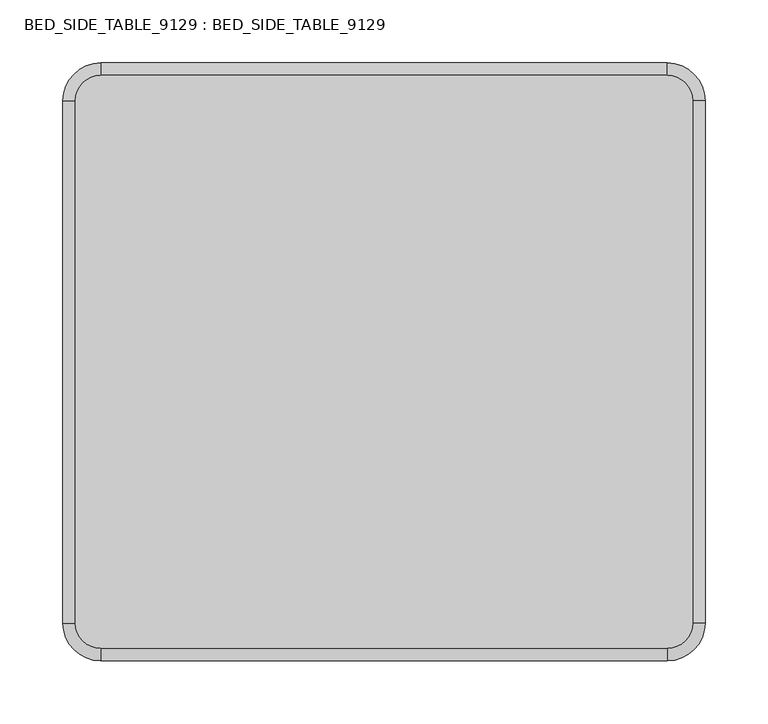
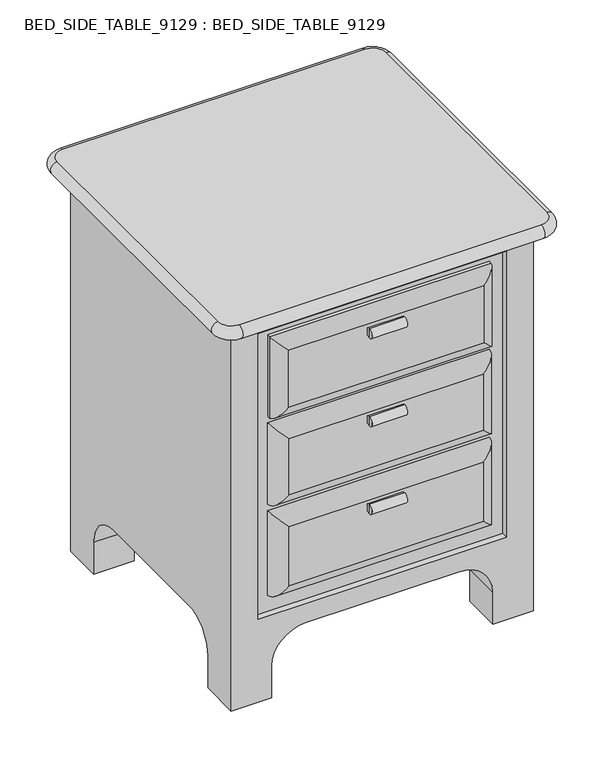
"""IFC4 building model written with IfcOpenShell, lengths in millimetres: furniture geometry, BED_SIDE_TABLE_9129 : BED_SIDE_TABLE_9129."""

from ifc_helpers import new_model, si_unit, point, frame, origin, place, context, project, spatial, polyline, circle_curve, ellipse_curve, trimmed, source, transform, mapped, element, save
from ifc_brep_helpers import plane_surface, cylinder_surface, revolved_surface, advanced_brep


def bed_side_table_9129_bed_side_table_9129_263ee310(model_context):
    return source(origin(), model_context, "Body", "AdvancedBrep", [
        advanced_brep(
        [(64.1710576, -185.6620283, 258.3333333), (64.1710576, -185.6620283, 265.7120474), (64.1710576, -185.6620283, 250.9546193), (11.6566154, -185.6620283, 250.9546193), (11.6566154, -185.6620283, 265.7120474), (11.6566154, -185.6620283, 258.3333333)],
        [
            (0, 1),
            (1, 2, circle_curve(frame((64.1710576, -185.6620283, 258.3333333), z_axis=(1.0, 0.0, 0.0), x_axis=(0.0, 0.0, 1.0)), 7.378714)),
            (2, 0),
            (2, 1, circle_curve(frame((64.1710576, -185.6620283, 258.3333333), z_axis=(1.0, 0.0, 0.0), x_axis=(0.0, 0.0, 1.0)), 7.378714)),
            (3, 4, circle_curve(frame((11.6566154, -185.6620283, 258.3333333), z_axis=(-1.0, 0.0, 0.0), x_axis=(0.0, 0.0, 1.0)), 7.378714)),
            (4, 5),
            (5, 3),
            (4, 3, circle_curve(frame((11.6566154, -185.6620283, 258.3333333), z_axis=(-1.0, 0.0, 0.0), x_axis=(0.0, 0.0, 1.0)), 7.378714)),
            (1, 4),
            (3, 2),
        ],
        [
            plane_surface(frame((64.1710576, -185.6620283, 258.3333333), z_axis=(1.0, 0.0, 0.0), x_axis=(0.0, 0.0, 1.0))),
            plane_surface(frame((11.6566154, -185.6620283, 258.3333333), z_axis=(-1.0, 0.0, 0.0), x_axis=(0.0, 0.0, 1.0))),
            cylinder_surface(frame((36.6566154, -185.6620283, 258.3333333), z_axis=(1.0, 0.0, 0.0), x_axis=(0.0, 0.0, 1.0)), 7.378714),
        ],
        [
            (0, [[1, 2, 3]]),
            (0, [[-3, 4, -1]]),
            (1, [[5, 6, 7]]),
            (1, [[8, -7, -6]]),
            (2, [[-2, 9, -5, 10]]),
            (2, [[-4, -10, -8, -9]]),
        ],
    ),
        advanced_brep(
        [(64.1710576, -185.6620283, 396.6666667), (64.1710576, -185.6620283, 404.0453807), (64.1710576, -185.6620283, 389.2879526), (11.6566154, -185.6620283, 389.2879526), (11.6566154, -185.6620283, 404.0453807), (11.6566154, -185.6620283, 396.6666667)],
        [
            (0, 1),
            (1, 2, circle_curve(frame((64.1710576, -185.6620283, 396.6666667), z_axis=(1.0, 0.0, 0.0), x_axis=(0.0, 0.0, 1.0)), 7.378714)),
            (2, 0),
            (2, 1, circle_curve(frame((64.1710576, -185.6620283, 396.6666667), z_axis=(1.0, 0.0, 0.0), x_axis=(0.0, 0.0, 1.0)), 7.378714)),
            (3, 4, circle_curve(frame((11.6566154, -185.6620283, 396.6666667), z_axis=(-1.0, 0.0, 0.0), x_axis=(0.0, 0.0, 1.0)), 7.378714)),
            (4, 5),
            (5, 3),
            (4, 3, circle_curve(frame((11.6566154, -185.6620283, 396.6666667), z_axis=(-1.0, 0.0, 0.0), x_axis=(0.0, 0.0, 1.0)), 7.378714)),
            (1, 4),
            (3, 2),
        ],
        [
            plane_surface(frame((64.1710576, -185.6620283, 396.6666667), z_axis=(1.0, 0.0, 0.0), x_axis=(0.0, 0.0, 1.0))),
            plane_surface(frame((11.6566154, -185.6620283, 396.6666667), z_axis=(-1.0, 0.0, 0.0), x_axis=(0.0, 0.0, 1.0))),
            cylinder_surface(frame((36.6566154, -185.6620283, 396.6666667), z_axis=(1.0, 0.0, 0.0), x_axis=(0.0, 0.0, 1.0)), 7.378714),
        ],
        [
            (0, [[1, 2, 3]]),
            (0, [[-3, 4, -1]]),
            (1, [[5, 6, 7]]),
            (1, [[8, -7, -6]]),
            (2, [[-2, 9, -5, 10]]),
            (2, [[-4, -10, -8, -9]]),
        ],
    ),
        advanced_brep(
        [(64.1710576, -185.6620283, 535.0), (64.1710576, -185.6620283, 542.378714), (64.1710576, -185.6620283, 527.621286), (11.6566154, -185.6620283, 527.621286), (11.6566154, -185.6620283, 542.378714), (11.6566154, -185.6620283, 535.0)],
        [
            (0, 1),
            (1, 2, circle_curve(frame((64.1710576, -185.6620283, 535.0), z_axis=(1.0, 0.0, 0.0), x_axis=(0.0, 0.0, 1.0)), 7.378714)),
            (2, 0),
            (2, 1, circle_curve(frame((64.1710576, -185.6620283, 535.0), z_axis=(1.0, 0.0, 0.0), x_axis=(0.0, 0.0, 1.0)), 7.378714)),
            (3, 4, circle_curve(frame((11.6566154, -185.6620283, 535.0), z_axis=(-1.0, 0.0, 0.0), x_axis=(0.0, 0.0, 1.0)), 7.378714)),
            (4, 5),
            (5, 3),
            (4, 3, circle_curve(frame((11.6566154, -185.6620283, 535.0), z_axis=(-1.0, 0.0, 0.0), x_axis=(0.0, 0.0, 1.0)), 7.378714)),
            (1, 4),
            (3, 2),
        ],
        [
            plane_surface(frame((64.1710576, -185.6620283, 535.0), z_axis=(1.0, 0.0, 0.0), x_axis=(0.0, 0.0, 1.0))),
            plane_surface(frame((11.6566154, -185.6620283, 535.0), z_axis=(-1.0, 0.0, 0.0), x_axis=(0.0, 0.0, 1.0))),
            cylinder_surface(frame((36.6566154, -185.6620283, 535.0), z_axis=(1.0, 0.0, 0.0), x_axis=(0.0, 0.0, 1.0)), 7.378714),
        ],
        [
            (0, [[1, 2, 3]]),
            (0, [[-3, 4, -1]]),
            (1, [[5, 6, 7]]),
            (1, [[8, -7, -6]]),
            (2, [[-2, 9, -5, 10]]),
            (2, [[-4, -10, -8, -9]]),
        ],
    ),
        advanced_brep(
        [(205.0, -159.9692111, 565.0), (205.0, -159.9692111, 436.6666667), (-125.0, -159.9692111, 436.6666667), (-125.0, -159.9692111, 565.0), (-105.5943818, -179.9692111, 545.5943818), (-105.5943818, -179.9692111, 456.0722849), (185.5943818, -179.9692111, 456.0722849), (185.5943818, -179.9692111, 545.5943818), (205.0, -164.8088373, 565.0), (205.0, -164.8088373, 436.6666667), (-125.0, -164.8088373, 436.6666667), (-125.0, -164.8088373, 565.0)],
        [
            (0, 1),
            (1, 2),
            (2, 3),
            (3, 0),
            (4, 5),
            (5, 6),
            (6, 7),
            (7, 4),
            (0, 8),
            (8, 9),
            (9, 1),
            (9, 10),
            (10, 2),
            (10, 11),
            (11, 3),
            (11, 8),
            (10, 5, ellipse_curve(frame((-105.5943818, -159.9692111, 456.0722849), z_axis=(-0.7071067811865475, 0.0, 0.7071067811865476), x_axis=(-0.7071067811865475, 0.0, -0.7071067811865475)), 28.2842712, 20.0)),
            (4, 11, ellipse_curve(frame((-105.5943818, -159.9692111, 545.5943818), z_axis=(-0.7071067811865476, 0.0, -0.7071067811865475), x_axis=(0.7071067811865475, 0.0, -0.7071067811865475)), 28.2842712, 20.0)),
            (9, 6, ellipse_curve(frame((185.5943818, -159.9692111, 456.0722849), z_axis=(-0.7071067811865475, 0.0, -0.7071067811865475), x_axis=(0.7071067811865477, 0.0, -0.7071067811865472)), 28.2842712, 20.0)),
            (8, 7, ellipse_curve(frame((185.5943818, -159.9692111, 545.5943818), z_axis=(0.7071067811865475, 0.0, -0.7071067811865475), x_axis=(0.7071067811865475, 0.0, 0.7071067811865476)), 28.2842712, 20.0)),
        ],
        [
            plane_surface(frame((205.0, -159.9692111, 565.0), z_axis=(0.0, 1.0, 0.0), x_axis=(0.0, 0.0, -1.0))),
            plane_surface(frame((205.0, -179.9692111, 565.0), z_axis=(0.0, -1.0, 0.0), x_axis=(0.0, 0.0, 1.0))),
            plane_surface(frame((205.0, -159.9692111, 565.0), z_axis=(1.0, 0.0, 0.0), x_axis=(0.0, -1.0, 0.0))),
            plane_surface(frame((205.0, -159.9692111, 436.6666667), z_axis=(0.0, 0.0, -1.0), x_axis=(0.0, -1.0, 0.0))),
            plane_surface(frame((-125.0, -159.9692111, 436.6666667), z_axis=(-1.0, 0.0, 0.0), x_axis=(0.0, -1.0, 0.0))),
            plane_surface(frame((-125.0, -159.9692111, 565.0), z_axis=(0.0, 0.0, 1.0), x_axis=(0.0, -1.0, 0.0))),
            cylinder_surface(frame((-105.5943818, -159.9692111, 565.0), z_axis=(0.0, 0.0, -1.0), x_axis=(0.0, -1.0, 0.0)), 20.0),
            cylinder_surface(frame((-125.0, -159.9692111, 456.0722849), z_axis=(1.0, 0.0, 0.0), x_axis=(0.0, -1.0, 0.0)), 20.0),
            cylinder_surface(frame((185.5943818, -159.9692111, 436.6666667), z_axis=(0.0, 0.0, 1.0), x_axis=(0.0, -1.0, 0.0)), 20.0),
            cylinder_surface(frame((205.0, -159.9692111, 545.5943818), z_axis=(-1.0, 0.0, 0.0), x_axis=(0.0, -1.0, 0.0)), 20.0),
        ],
        [
            (0, [[1, 2, 3, 4]]),
            (1, [[5, 6, 7, 8]]),
            (2, [[-1, 9, 10, 11]]),
            (3, [[-2, -11, 12, 13]]),
            (4, [[-3, -13, 14, 15]]),
            (5, [[-4, -15, 16, -9]]),
            (6, [[17, -5, 18, -14]]),
            (7, [[19, -6, -17, -12]]),
            (8, [[20, -7, -19, -10]]),
            (9, [[-20, -16, -18, -8]]),
        ],
    ),
        advanced_brep(
        [(-125.0, -159.9692111, 298.3333333), (-125.0, -159.9692111, 426.6666667), (205.0, -159.9692111, 426.6666667), (205.0, -159.9692111, 298.3333333), (-105.0, -179.9692111, 406.6666667), (-105.0, -179.9692111, 318.3333333), (185.0, -179.9692111, 318.3333333), (185.0, -179.9692111, 406.6666667)],
        [
            (0, 1),
            (1, 2),
            (2, 3),
            (3, 0),
            (4, 5),
            (5, 6),
            (6, 7),
            (7, 4),
            (0, 5, ellipse_curve(frame((-105.0, -159.9692111, 318.3333333), z_axis=(-0.7071067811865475, 0.0, 0.7071067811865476), x_axis=(-0.7071067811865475, 0.0, -0.7071067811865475)), 28.2842712, 20.0)),
            (4, 1, ellipse_curve(frame((-105.0, -159.9692111, 406.6666667), z_axis=(-0.7071067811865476, 0.0, -0.7071067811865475), x_axis=(0.7071067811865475, 0.0, -0.7071067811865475)), 28.2842712, 20.0)),
            (3, 6, ellipse_curve(frame((185.0, -159.9692111, 318.3333333), z_axis=(-0.7071067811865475, 0.0, -0.7071067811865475), x_axis=(0.7071067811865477, 0.0, -0.7071067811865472)), 28.2842712, 20.0)),
            (2, 7, ellipse_curve(frame((185.0, -159.9692111, 406.6666667), z_axis=(0.7071067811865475, 0.0, -0.7071067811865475), x_axis=(0.7071067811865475, 0.0, 0.7071067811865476)), 28.2842712, 20.0)),
        ],
        [
            plane_surface(frame((205.0, -159.9692111, 565.0), z_axis=(0.0, 1.0, 0.0), x_axis=(0.0, 0.0, -1.0))),
            plane_surface(frame((205.0, -179.9692111, 565.0), z_axis=(0.0, -1.0, 0.0), x_axis=(0.0, 0.0, 1.0))),
            cylinder_surface(frame((-105.0, -159.9692111, 426.6666667), z_axis=(0.0, 0.0, -1.0), x_axis=(0.0, -1.0, 0.0)), 20.0),
            cylinder_surface(frame((-125.0, -159.9692111, 318.3333333), z_axis=(1.0, 0.0, 0.0), x_axis=(0.0, -1.0, 0.0)), 20.0),
            cylinder_surface(frame((185.0, -159.9692111, 298.3333333), z_axis=(0.0, 0.0, 1.0), x_axis=(0.0, -1.0, 0.0)), 20.0),
            cylinder_surface(frame((205.0, -159.9692111, 406.6666667), z_axis=(-1.0, 0.0, 0.0), x_axis=(0.0, -1.0, 0.0)), 20.0),
        ],
        [
            (0, [[1, 2, 3, 4]]),
            (1, [[5, 6, 7, 8]]),
            (2, [[9, -5, 10, -1]]),
            (3, [[-9, -4, 11, -6]]),
            (4, [[-11, -3, 12, -7]]),
            (5, [[-10, -8, -12, -2]]),
        ],
    ),
        advanced_brep(
        [(-125.0, -159.9692111, 155.0), (-125.0, -159.9692111, 288.3333333), (205.0, -159.9692111, 288.3333333), (205.0, -159.9692111, 155.0), (-105.0, -179.9692111, 268.3333333), (-105.0, -179.9692111, 175.0), (185.0, -179.9692111, 175.0), (185.0, -179.9692111, 268.3333333)],
        [
            (0, 1),
            (1, 2),
            (2, 3),
            (3, 0),
            (4, 5),
            (5, 6),
            (6, 7),
            (7, 4),
            (0, 5, ellipse_curve(frame((-105.0, -159.9692111, 175.0), z_axis=(-0.7071067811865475, 0.0, 0.7071067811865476), x_axis=(-0.7071067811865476, 0.0, -0.7071067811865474)), 28.2842712, 20.0)),
            (4, 1, ellipse_curve(frame((-105.0, -159.9692111, 268.3333333), z_axis=(-0.7071067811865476, 0.0, -0.7071067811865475), x_axis=(0.7071067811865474, 0.0, -0.7071067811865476)), 28.2842712, 20.0)),
            (3, 6, ellipse_curve(frame((185.0, -159.9692111, 175.0), z_axis=(-0.7071067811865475, 0.0, -0.7071067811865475), x_axis=(0.7071067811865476, 0.0, -0.7071067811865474)), 28.2842712, 20.0)),
            (2, 7, ellipse_curve(frame((185.0, -159.9692111, 268.3333333), z_axis=(0.7071067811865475, 0.0, -0.7071067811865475), x_axis=(0.7071067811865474, 0.0, 0.7071067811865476)), 28.2842712, 20.0)),
        ],
        [
            plane_surface(frame((205.0, -159.9692111, 565.0), z_axis=(0.0, 1.0, 0.0), x_axis=(0.0, 0.0, -1.0))),
            plane_surface(frame((205.0, -179.9692111, 565.0), z_axis=(0.0, -1.0, 0.0), x_axis=(0.0, 0.0, 1.0))),
            cylinder_surface(frame((-105.0, -159.9692111, 288.3333333), z_axis=(0.0, 0.0, -1.0), x_axis=(0.0, -1.0, 0.0)), 20.0),
            cylinder_surface(frame((-125.0, -159.9692111, 175.0), z_axis=(1.0, 0.0, 0.0), x_axis=(0.0, -1.0, 0.0)), 20.0),
            cylinder_surface(frame((185.0, -159.9692111, 155.0), z_axis=(0.0, 0.0, 1.0), x_axis=(0.0, -1.0, 0.0)), 20.0),
            cylinder_surface(frame((205.0, -159.9692111, 268.3333333), z_axis=(-1.0, 0.0, 0.0), x_axis=(0.0, -1.0, 0.0)), 20.0),
        ],
        [
            (0, [[1, 2, 3, 4]]),
            (1, [[5, 6, 7, 8]]),
            (2, [[9, -5, 10, -1]]),
            (3, [[-9, -4, 11, -6]]),
            (4, [[-11, -3, 12, -7]]),
            (5, [[-10, -8, -12, -2]]),
        ],
    ),
        advanced_brep(
        [(-205.0, 244.9107964, 600.0), (-185.0, 264.9107964, 600.0), (265.0, 264.9107964, 600.0), (285.0, 244.9107964, 600.0), (285.0, -169.9692111, 600.0), (265.0, -189.9692111, 600.0), (-185.0, -189.9692111, 600.0), (-205.0, -169.9692111, 600.0), (-185.0, 264.9107964, 620.0), (-205.0, 244.9107964, 620.0), (-205.0, -169.9692111, 620.0), (-185.0, -189.9692111, 620.0), (265.0, -189.9692111, 620.0), (285.0, -169.9692111, 620.0), (285.0, 244.9107964, 620.0), (265.0, 264.9107964, 620.0), (-185.0, 274.9107964, 610.0000125), (-215.0, 244.9107964, 610.0000123), (-215.0, -169.9692111, 610.0), (-185.0, -199.9692111, 610.0000122), (265.0, -199.9692111, 610.0), (295.0, -169.9692111, 610.0000111), (295.0, 244.9107964, 610.0), (265.0, 274.9107964, 610.0000097)],
        [
            (0, 1, circle_curve(frame((-185.0, 244.9107964, 600.0), z_axis=(0.0, 0.0, -1.0), x_axis=(0.0, 1.0, 0.0)), 20.0)),
            (1, 2),
            (2, 3, circle_curve(frame((265.0, 244.9107964, 600.0), z_axis=(0.0, 0.0, -1.0), x_axis=(1.0, 0.0, 0.0)), 20.0)),
            (3, 4),
            (4, 5, circle_curve(frame((265.0, -169.9692111, 600.0), z_axis=(0.0, 0.0, -1.0), x_axis=(0.0, -1.0, 0.0)), 20.0)),
            (5, 6),
            (6, 7, circle_curve(frame((-185.0, -169.9692111, 600.0), z_axis=(0.0, 0.0, -1.0), x_axis=(-1.0, 0.0, 0.0)), 20.0)),
            (7, 0),
            (8, 9, circle_curve(frame((-185.0, 244.9107964, 620.0), z_axis=(0.0, 0.0, 1.0), x_axis=(0.0, 1.0, 0.0)), 20.0)),
            (9, 10),
            (10, 11, circle_curve(frame((-185.0, -169.9692111, 620.0), z_axis=(0.0, 0.0, 1.0), x_axis=(-1.0, 0.0, 0.0)), 20.0)),
            (11, 12),
            (12, 13, circle_curve(frame((265.0, -169.9692111, 620.0), z_axis=(0.0, 0.0, 1.0), x_axis=(0.0, -1.0, 0.0)), 20.0)),
            (13, 14),
            (14, 15, circle_curve(frame((265.0, 244.9107964, 620.0), z_axis=(0.0, 0.0, 1.0), x_axis=(1.0, 0.0, 0.0)), 20.0)),
            (15, 8),
            (8, 16, circle_curve(frame((-185.0, 264.9107964, 610.0), z_axis=(-1.0, 0.0, 0.0), x_axis=(0.0, -1.0, 0.0)), 10.0)),
            (16, 1, circle_curve(frame((-185.0, 264.9107964, 610.0), z_axis=(-1.0, 0.0, 0.0), x_axis=(0.0, -1.0, 0.0)), 10.0)),
            (0, 17, circle_curve(frame((-205.0, 244.9107964, 610.0), z_axis=(0.0, 1.0, 0.0), x_axis=(1.0, 0.0, 0.0)), 10.0)),
            (17, 9, circle_curve(frame((-205.0, 244.9107964, 610.0), z_axis=(0.0, 1.0, 0.0), x_axis=(1.0, 0.0, 0.0)), 10.0)),
            (7, 18, circle_curve(frame((-205.0, -169.9692111, 610.0), z_axis=(0.0, 1.0, 0.0), x_axis=(1.0, 0.0, 0.0)), 10.0)),
            (18, 10, circle_curve(frame((-205.0, -169.9692111, 610.0), z_axis=(0.0, 1.0, 0.0), x_axis=(1.0, 0.0, 0.0)), 10.0)),
            (6, 19, circle_curve(frame((-185.0, -189.9692111, 610.0), z_axis=(-1.0, 0.0, 0.0), x_axis=(0.0, 1.0, 0.0)), 10.0)),
            (19, 11, circle_curve(frame((-185.0, -189.9692111, 610.0), z_axis=(-1.0, 0.0, 0.0), x_axis=(0.0, 1.0, 0.0)), 10.0)),
            (5, 20, circle_curve(frame((265.0, -189.9692111, 610.0), z_axis=(-1.0, 0.0, 0.0), x_axis=(0.0, 1.0, 0.0)), 10.0)),
            (20, 12, circle_curve(frame((265.0, -189.9692111, 610.0), z_axis=(-1.0, 0.0, 0.0), x_axis=(0.0, 1.0, 0.0)), 10.0)),
            (4, 21, circle_curve(frame((285.0, -169.9692111, 610.0), z_axis=(0.0, -1.0, 0.0), x_axis=(-1.0, 0.0, 0.0)), 10.0)),
            (21, 13, circle_curve(frame((285.0, -169.9692111, 610.0), z_axis=(0.0, -1.0, 0.0), x_axis=(-1.0, 0.0, 0.0)), 10.0)),
            (3, 22, circle_curve(frame((285.0, 244.9107964, 610.0), z_axis=(0.0, -1.0, 0.0), x_axis=(-1.0, 0.0, 0.0)), 10.0)),
            (22, 14, circle_curve(frame((285.0, 244.9107964, 610.0), z_axis=(0.0, -1.0, 0.0), x_axis=(-1.0, 0.0, 0.0)), 10.0)),
            (2, 23, circle_curve(frame((265.0, 264.9107964, 610.0), z_axis=(1.0, 0.0, 0.0), x_axis=(0.0, -1.0, 0.0)), 10.0)),
            (23, 15, circle_curve(frame((265.0, 264.9107964, 610.0), z_axis=(1.0, 0.0, 0.0), x_axis=(0.0, -1.0, 0.0)), 10.0)),
        ],
        [
            plane_surface(frame((-185.0, 274.9107964, 600.0), z_axis=(0.0, 0.0, -1.0), x_axis=(1.0, 0.0, 0.0))),
            plane_surface(frame((-185.0, 274.9107964, 620.0), z_axis=(0.0, 0.0, 1.0), x_axis=(-1.0, 0.0, 0.0))),
            revolved_surface(trimmed(ellipse_curve(frame((-185.0, 264.9107964, 610.0), z_axis=(1.0, 0.0, 0.0), x_axis=(0.0, -1.0, 0.0)), 10.0, 10.0), [point((-185.0, 264.9107964, 600.0))], [point((-185.0, 264.9107964, 620.0))], True, "CARTESIAN"), (-185.0, 244.9107964, 620.0), (0.0, 0.0, 1.0)),
            cylinder_surface(frame((-205.0, 244.9107964, 610.0), z_axis=(0.0, -1.0, 0.0), x_axis=(1.0, 0.0, 0.0)), 10.0),
            revolved_surface(trimmed(ellipse_curve(frame((-205.0, -169.9692111, 610.0), z_axis=(0.0, 1.0, 0.0), x_axis=(1.0, 0.0, 0.0)), 10.0, 10.0), [point((-205.0, -169.9692111, 600.0))], [point((-205.0, -169.9692111, 620.0))], True, "CARTESIAN"), (-185.0, -169.9692111, 620.0), (0.0, 0.0, 1.0)),
            cylinder_surface(frame((-185.0, -189.9692111, 610.0), z_axis=(1.0, 0.0, 0.0), x_axis=(0.0, 1.0, 0.0)), 10.0),
            revolved_surface(trimmed(ellipse_curve(frame((265.0, -189.9692111, 610.0), z_axis=(-1.0, 0.0, 0.0), x_axis=(0.0, 1.0, 0.0)), 10.0, 10.0), [point((265.0, -189.9692111, 600.0))], [point((265.0, -189.9692111, 620.0))], True, "CARTESIAN"), (265.0, -169.9692111, 620.0), (0.0, 0.0, 1.0)),
            cylinder_surface(frame((285.0, -169.9692111, 610.0), z_axis=(0.0, 1.0, 0.0), x_axis=(-1.0, 0.0, 0.0)), 10.0),
            revolved_surface(trimmed(ellipse_curve(frame((285.0, 244.9107964, 610.0), z_axis=(0.0, -1.0, 0.0), x_axis=(-1.0, 0.0, 0.0)), 10.0, 10.0), [point((285.0, 244.9107964, 600.0))], [point((285.0, 244.9107964, 620.0))], True, "CARTESIAN"), (265.0, 244.9107964, 620.0), (0.0, 0.0, 1.0)),
            cylinder_surface(frame((265.0, 264.9107964, 610.0), z_axis=(-1.0, 0.0, 0.0), x_axis=(0.0, -1.0, 0.0)), 10.0),
        ],
        [
            (0, [[1, 2, 3, 4, 5, 6, 7, 8]]),
            (1, [[9, 10, 11, 12, 13, 14, 15, 16]]),
            (2, [[17, 18, -1, 19, 20, -9]]),
            (3, [[-19, -8, 21, 22, -10, -20]]),
            (4, [[-21, -7, 23, 24, -11, -22]]),
            (5, [[-23, -6, 25, 26, -12, -24]]),
            (6, [[-25, -5, 27, 28, -13, -26]]),
            (7, [[-27, -4, 29, 30, -14, -28]]),
            (8, [[31, 32, -15, -30, -29, -3]]),
            (9, [[-31, -2, -18, -17, -16, -32]]),
        ],
    ),
        advanced_brep(
        [(265.0, 244.9107964, 600.0), (265.0, 244.9107964, 0.0), (205.0, 244.9107964, 0.0), (205.0, 244.9107964, 50.0), (155.0, 244.9107964, 100.0), (-75.0, 244.9107964, 100.0), (-125.0, 244.9107964, 50.0), (-125.0, 244.9107964, 0.0), (-185.0, 244.9107964, 0.0), (-185.0, 244.9107964, 600.0), (265.0, -169.9692111, 600.0), (-185.0, -169.9692111, 600.0), (-185.0, -169.9692111, 0.0), (-125.0, -169.9692111, 0.0), (-125.0, -169.9692111, 50.0), (-75.0, -169.9692111, 100.0), (155.0, -169.9692111, 100.0), (205.0, -169.9692111, 50.0), (205.0, -169.9692111, 0.0), (265.0, -169.9692111, 0.0), (-145.0, -169.9692111, 580.0), (225.0, -169.9692111, 580.0), (225.0, -169.9692111, 130.0), (-145.0, -169.9692111, 130.0), (265.0, -109.9692111, 0.0), (265.0, -109.9692111, 50.0), (265.0, -59.9692111, 100.0), (265.0, 134.9107964, 100.0), (265.0, 184.9107964, 50.0), (265.0, 184.9107964, 0.0), (265.0, -84.9692111, 570.0), (265.0, 159.9107964, 570.0), (265.0, 184.9107964, 545.0), (265.0, 184.9107964, 180.0), (265.0, 159.9107964, 155.0), (265.0, -84.9692111, 155.0), (265.0, -109.9692111, 180.0), (265.0, -109.9692111, 545.0), (265.0, 159.9107964, 550.0), (265.0, -84.9692111, 550.0), (265.0, -89.9692111, 545.0), (265.0, -89.9692111, 180.0), (265.0, -84.9692111, 175.0), (265.0, 159.9107964, 175.0), (265.0, 164.9107964, 180.0), (265.0, 164.9107964, 545.0), (205.0, 184.9107964, 0.0), (-125.0, 184.9107964, 0.0), (-185.0, 184.9107964, 0.0), (-185.0, -109.9692111, 0.0), (-125.0, -109.9692111, 0.0), (205.0, -109.9692111, 0.0), (-185.0, 184.9107964, 50.0), (-185.0, 134.9107964, 100.0), (-185.0, -59.9692111, 100.0), (-185.0, -109.9692111, 50.0), (-75.0, 134.9107964, 100.0), (-125.0, 184.9107964, 50.0), (-125.0, -109.9692111, 50.0), (-75.0, -59.9692111, 100.0), (155.0, 134.9107964, 100.0), (155.0, -59.9692111, 100.0), (205.0, 184.9107964, 50.0), (205.0, -109.9692111, 50.0), (-145.0, -159.9692111, 580.0), (-145.0, -159.9692111, 130.0), (225.0, -159.9692111, 130.0), (225.0, -159.9692111, 580.0), (255.0, 159.9107964, 570.0), (255.0, -84.9692111, 570.0), (255.0, -109.9692111, 545.0), (255.0, -109.9692111, 180.0), (255.0, -84.9692111, 155.0), (255.0, 159.9107964, 155.0), (255.0, 184.9107964, 180.0), (255.0, 184.9107964, 545.0), (255.0, -84.9692111, 550.0), (255.0, 159.9107964, 550.0), (255.0, 164.9107964, 545.0), (255.0, 164.9107964, 180.0), (255.0, 159.9107964, 175.0), (255.0, -84.9692111, 175.0), (255.0, -89.9692111, 180.0), (255.0, -89.9692111, 545.0)],
        [
            (0, 1),
            (1, 2),
            (2, 3),
            (3, 4, circle_curve(frame((155.0, 244.9107964, 50.0), z_axis=(0.0, -1.0, 0.0), x_axis=(-1.0, 0.0, 0.0)), 50.0)),
            (4, 5),
            (5, 6, circle_curve(frame((-75.0, 244.9107964, 50.0), z_axis=(0.0, -1.0, 0.0), x_axis=(-1.0, 0.0, 0.0)), 50.0)),
            (6, 7),
            (7, 8),
            (8, 9),
            (9, 0),
            (10, 11),
            (11, 12),
            (12, 13),
            (13, 14),
            (14, 15, circle_curve(frame((-75.0, -169.9692111, 50.0), z_axis=(0.0, 1.0, 0.0), x_axis=(-1.0, 0.0, 0.0)), 50.0)),
            (15, 16),
            (16, 17, circle_curve(frame((155.0, -169.9692111, 50.0), z_axis=(0.0, 1.0, 0.0), x_axis=(-1.0, 0.0, 0.0)), 50.0)),
            (17, 18),
            (18, 19),
            (19, 10),
            (20, 21),
            (21, 22),
            (22, 23),
            (23, 20),
            (0, 10),
            (19, 24),
            (24, 25),
            (25, 26, circle_curve(frame((265.0, -59.9692111, 50.0), z_axis=(-1.0, 0.0, 0.0), x_axis=(0.0, 1.0, 0.0)), 50.0)),
            (26, 27),
            (27, 28, circle_curve(frame((265.0, 134.9107964, 50.0), z_axis=(-1.0, 0.0, 0.0), x_axis=(0.0, 1.0, 0.0)), 50.0)),
            (28, 29),
            (29, 1),
            (30, 31),
            (31, 32, circle_curve(frame((265.0, 159.9107964, 545.0), z_axis=(-1.0, 0.0, 0.0), x_axis=(0.0, 1.0, 0.0)), 25.0)),
            (32, 33),
            (33, 34, circle_curve(frame((265.0, 159.9107964, 180.0), z_axis=(-1.0, 0.0, 0.0), x_axis=(0.0, 1.0, 0.0)), 25.0)),
            (34, 35),
            (35, 36, circle_curve(frame((265.0, -84.9692111, 180.0), z_axis=(-1.0, 0.0, 0.0), x_axis=(0.0, 1.0, 0.0)), 25.0)),
            (36, 37),
            (37, 30, circle_curve(frame((265.0, -84.9692111, 545.0), z_axis=(-1.0, 0.0, 0.0), x_axis=(0.0, 1.0, 0.0)), 25.0)),
            (38, 39),
            (39, 40, circle_curve(frame((265.0, -84.9692111, 545.0), z_axis=(1.0, 0.0, 0.0), x_axis=(0.0, 1.0, 0.0)), 5.0)),
            (40, 41),
            (41, 42, circle_curve(frame((265.0, -84.9692111, 180.0), z_axis=(1.0, 0.0, 0.0), x_axis=(0.0, 1.0, 0.0)), 5.0)),
            (42, 43),
            (43, 44, circle_curve(frame((265.0, 159.9107964, 180.0), z_axis=(1.0, 0.0, 0.0), x_axis=(0.0, 1.0, 0.0)), 5.0)),
            (44, 45),
            (45, 38, circle_curve(frame((265.0, 159.9107964, 545.0), z_axis=(1.0, 0.0, 0.0), x_axis=(0.0, 1.0, 0.0)), 5.0)),
            (29, 46),
            (46, 2),
            (7, 47),
            (47, 48),
            (48, 8),
            (12, 49),
            (49, 50),
            (50, 13),
            (18, 51),
            (51, 24),
            (48, 52),
            (52, 53, circle_curve(frame((-185.0, 134.9107964, 50.0), z_axis=(1.0, 0.0, 0.0), x_axis=(0.0, 1.0, 0.0)), 50.0)),
            (53, 54),
            (54, 55, circle_curve(frame((-185.0, -59.9692111, 50.0), z_axis=(1.0, 0.0, 0.0), x_axis=(0.0, 1.0, 0.0)), 50.0)),
            (55, 49),
            (11, 9),
            (5, 56),
            (56, 57, ellipse_curve(frame((-75.0, 134.9107964, 50.0), z_axis=(-0.7071067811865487, -0.7071067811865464, 0.0), x_axis=(-0.7071067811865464, 0.7071067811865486, 0.0)), 70.7106781, 50.0)),
            (57, 6),
            (14, 58),
            (58, 59, ellipse_curve(frame((-75.0, -59.9692111, 50.0), z_axis=(-0.7071067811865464, 0.7071067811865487, 0.0), x_axis=(0.7071067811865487, 0.7071067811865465, 0.0)), 70.7106781, 50.0)),
            (59, 15),
            (4, 60),
            (60, 27),
            (26, 61),
            (61, 16),
            (59, 54),
            (53, 56),
            (3, 62),
            (62, 60, ellipse_curve(frame((155.0, 134.9107964, 50.0), z_axis=(0.7071067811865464, -0.7071067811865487, 0.0), x_axis=(0.7071067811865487, 0.7071067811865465, 0.0)), 70.7106781, 50.0)),
            (61, 63, ellipse_curve(frame((155.0, -59.9692111, 50.0), z_axis=(0.7071067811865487, 0.7071067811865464, 0.0), x_axis=(-0.7071067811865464, 0.7071067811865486, 0.0)), 70.7106781, 50.0)),
            (63, 17),
            (46, 62),
            (63, 51),
            (57, 47),
            (50, 58),
            (25, 63),
            (58, 55),
            (57, 52),
            (28, 62),
            (64, 65),
            (65, 66),
            (66, 67),
            (67, 64),
            (67, 21),
            (20, 64),
            (66, 22),
            (65, 23),
            (68, 69),
            (69, 70, circle_curve(frame((255.0, -84.9692111, 545.0), z_axis=(1.0, 0.0, 0.0), x_axis=(0.0, 1.0, 0.0)), 25.0)),
            (70, 71),
            (71, 72, circle_curve(frame((255.0, -84.9692111, 180.0), z_axis=(1.0, 0.0, 0.0), x_axis=(0.0, 1.0, 0.0)), 25.0)),
            (72, 73),
            (73, 74, circle_curve(frame((255.0, 159.9107964, 180.0), z_axis=(1.0, 0.0, 0.0), x_axis=(0.0, 1.0, 0.0)), 25.0)),
            (74, 75),
            (75, 68, circle_curve(frame((255.0, 159.9107964, 545.0), z_axis=(1.0, 0.0, 0.0), x_axis=(0.0, 1.0, 0.0)), 25.0)),
            (76, 77),
            (77, 78, circle_curve(frame((255.0, 159.9107964, 545.0), z_axis=(-1.0, 0.0, 0.0), x_axis=(0.0, 1.0, 0.0)), 5.0)),
            (78, 79),
            (79, 80, circle_curve(frame((255.0, 159.9107964, 180.0), z_axis=(-1.0, 0.0, 0.0), x_axis=(0.0, 1.0, 0.0)), 5.0)),
            (80, 81),
            (81, 82, circle_curve(frame((255.0, -84.9692111, 180.0), z_axis=(-1.0, 0.0, 0.0), x_axis=(0.0, 1.0, 0.0)), 5.0)),
            (82, 83),
            (83, 76, circle_curve(frame((255.0, -84.9692111, 545.0), z_axis=(-1.0, 0.0, 0.0), x_axis=(0.0, 1.0, 0.0)), 5.0)),
            (68, 31),
            (30, 69),
            (37, 70),
            (36, 71),
            (35, 72),
            (34, 73),
            (33, 74),
            (32, 75),
            (76, 39),
            (38, 77),
            (45, 78),
            (44, 79),
            (43, 80),
            (42, 81),
            (41, 82),
            (40, 83),
        ],
        [
            plane_surface(frame((265.0, 244.9107964, 600.0), z_axis=(0.0, 1.0, 0.0), x_axis=(0.0, 0.0, -1.0))),
            plane_surface(frame((265.0, -169.9692111, 600.0), z_axis=(0.0, -1.0, 0.0), x_axis=(0.0, 0.0, 1.0))),
            plane_surface(frame((265.0, 244.9107964, 600.0), z_axis=(1.0, 0.0, 0.0), x_axis=(0.0, -1.0, 0.0))),
            plane_surface(frame((265.0, 244.9107964, 0.0), z_axis=(0.0, 0.0, -1.0), x_axis=(0.0, -1.0, 0.0))),
            plane_surface(frame((-185.0, 244.9107964, 0.0), z_axis=(-1.0, 0.0, 0.0), x_axis=(0.0, -1.0, 0.0))),
            plane_surface(frame((-185.0, 244.9107964, 600.0), z_axis=(0.0, 0.0, 1.0), x_axis=(0.0, -1.0, 0.0))),
            revolved_surface(polyline([(-125.0, 244.91079640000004, 50.0), (-125.0, 84.91079641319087, 50.0)]), (-75.0, -169.9692111, 50.0), (0.0, 1.0, 0.0)),
            revolved_surface(polyline([(-125.0, -9.969211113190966, 50.0), (-125.0, -169.9692111, 50.0)]), (-75.0, -169.9692111, 50.0), (0.0, 1.0, 0.0)),
            plane_surface(frame((-75.0, 305.0307889, 100.0), z_axis=(0.0, 0.0, -1.0), x_axis=(0.0, -1.0, 0.0))),
            revolved_surface(polyline([(105.0, 244.91079640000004, 50.0), (105.0, 84.91079641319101, 50.0)]), (155.0, -169.9692111, 50.0), (0.0, 1.0, 0.0)),
            revolved_surface(polyline([(105.0, -9.969211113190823, 50.0), (105.0, -169.9692111, 50.0)]), (155.0, -169.9692111, 50.0), (0.0, 1.0, 0.0)),
            plane_surface(frame((205.0, 305.0307889, 50.0), z_axis=(-1.0, 0.0, 0.0), x_axis=(0.0, -1.0, 0.0))),
            plane_surface(frame((-125.0, 305.0307889, 0.0), z_axis=(1.0, 0.0, 0.0), x_axis=(0.0, -1.0, 0.0))),
            revolved_surface(polyline([(265.0, -9.969211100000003, 50.0), (105.00000001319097, -9.969211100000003, 50.0)]), (-185.0, -59.9692111, 50.0), (1.0, 0.0, 0.0)),
            revolved_surface(polyline([(-25.000000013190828, -9.969211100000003, 50.0), (-185.0, -9.969211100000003, 50.0)]), (-185.0, -59.9692111, 50.0), (1.0, 0.0, 0.0)),
            plane_surface(frame((265.0, -109.9692111, 50.0), z_axis=(0.0, 1.0, 0.0), x_axis=(-1.0, 0.0, 0.0))),
            plane_surface(frame((265.0, 184.9107964, 0.0), z_axis=(0.0, -1.0, 0.0), x_axis=(-1.0, 0.0, 0.0))),
            revolved_surface(polyline([(265.0, 184.9107964, 50.0), (105.0000000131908, 184.9107964, 50.0)]), (-185.0, 134.9107964, 50.0), (1.0, 0.0, 0.0)),
            revolved_surface(polyline([(-25.000000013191, 184.9107964, 50.0), (-185.0, 184.9107964, 50.0)]), (-185.0, 134.9107964, 50.0), (1.0, 0.0, 0.0)),
            plane_surface(frame((-145.0, -159.9692111, 580.0), z_axis=(0.0, -1.0, 0.0), x_axis=(1.0, 0.0, 0.0))),
            plane_surface(frame((-145.0, -159.9692111, 580.0), z_axis=(0.0, 0.0, -1.0), x_axis=(0.0, -1.0, 0.0))),
            plane_surface(frame((225.0, -159.9692111, 580.0), z_axis=(-1.0, 0.0, 0.0), x_axis=(0.0, -1.0, 0.0))),
            plane_surface(frame((225.0, -159.9692111, 130.0), z_axis=(0.0, 0.0, 1.0), x_axis=(0.0, -1.0, 0.0))),
            plane_surface(frame((-145.0, -159.9692111, 130.0), z_axis=(1.0, 0.0, 0.0), x_axis=(0.0, -1.0, 0.0))),
            plane_surface(frame((255.0, -84.9692111, 570.0), z_axis=(1.0, 0.0, 0.0), x_axis=(0.0, 1.0, 0.0))),
            plane_surface(frame((265.0, 159.9107964, 570.0), z_axis=(0.0, 0.0, -1.0), x_axis=(-1.0, 0.0, 0.0))),
            revolved_surface(polyline([(265.0, -59.969211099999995, 545.0), (255.0, -59.969211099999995, 545.0)]), (255.0, -84.9692111, 545.0), (1.0, 0.0, 0.0)),
            plane_surface(frame((265.0, -109.9692111, 545.0), z_axis=(0.0, 1.0, 0.0), x_axis=(-1.0, 0.0, 0.0))),
            revolved_surface(polyline([(265.0, -59.969211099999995, 180.0), (255.0, -59.969211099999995, 180.0)]), (255.0, -84.9692111, 180.0), (1.0, 0.0, 0.0)),
            plane_surface(frame((265.0, -84.9692111, 155.0), z_axis=(0.0, 0.0, 1.0), x_axis=(-1.0, 0.0, 0.0))),
            revolved_surface(polyline([(265.0, 184.9107964, 180.0), (255.0, 184.9107964, 180.0)]), (255.0, 159.9107964, 180.0), (1.0, 0.0, 0.0)),
            plane_surface(frame((265.0, 184.9107964, 180.0), z_axis=(0.0, -1.0, 0.0), x_axis=(-1.0, 0.0, 0.0))),
            revolved_surface(polyline([(265.0, 184.9107964, 545.0), (255.0, 184.9107964, 545.0)]), (255.0, 159.9107964, 545.0), (1.0, 0.0, 0.0)),
            plane_surface(frame((265.0, -84.9692111, 550.0), z_axis=(0.0, 0.0, 1.0), x_axis=(-1.0, 0.0, 0.0))),
            cylinder_surface(frame((265.0, 159.9107964, 545.0), z_axis=(-1.0, 0.0, 0.0), x_axis=(0.0, 1.0, 0.0)), 5.0),
            plane_surface(frame((265.0, 164.9107964, 545.0), z_axis=(0.0, 1.0, 0.0), x_axis=(-1.0, 0.0, 0.0))),
            cylinder_surface(frame((265.0, 159.9107964, 180.0), z_axis=(-1.0, 0.0, 0.0), x_axis=(0.0, 1.0, 0.0)), 5.0),
            plane_surface(frame((265.0, 159.9107964, 175.0), z_axis=(0.0, 0.0, -1.0), x_axis=(-1.0, 0.0, 0.0))),
            cylinder_surface(frame((265.0, -84.9692111, 180.0), z_axis=(-1.0, 0.0, 0.0), x_axis=(0.0, 1.0, 0.0)), 5.0),
            plane_surface(frame((265.0, -89.9692111, 180.0), z_axis=(0.0, -1.0, 0.0), x_axis=(-1.0, 0.0, 0.0))),
            cylinder_surface(frame((265.0, -84.9692111, 545.0), z_axis=(-1.0, 0.0, 0.0), x_axis=(0.0, 1.0, 0.0)), 5.0),
        ],
        [
            (0, [[1, 2, 3, 4, 5, 6, 7, 8, 9, 10]]),
            (1, [[11, 12, 13, 14, 15, 16, 17, 18, 19, 20], [21, 22, 23, 24]]),
            (2, [[-1, 25, -20, 26, 27, 28, 29, 30, 31, 32], [33, 34, 35, 36, 37, 38, 39, 40]]),
            (2, [[41, 42, 43, 44, 45, 46, 47, 48]]),
            (3, [[-2, -32, 49, 50]]),
            (3, [[-8, 51, 52, 53]]),
            (3, [[-13, 54, 55, 56]]),
            (3, [[-19, 57, 58, -26]]),
            (4, [[-9, -53, 59, 60, 61, 62, 63, -54, -12, 64]]),
            (5, [[-10, -64, -11, -25]]),
            (6, [[-6, 65, 66, 67]]),
            (7, [[-15, 68, 69, 70]]),
            (8, [[-5, 71, 72, -29, 73, 74, -16, -70, 75, -61, 76, -65]]),
            (9, [[-4, 77, 78, -71]]),
            (10, [[-17, -74, 79, 80]]),
            (11, [[-3, -50, 81, -77]]),
            (11, [[-18, -80, 82, -57]]),
            (12, [[-7, -67, 83, -51]]),
            (12, [[-14, -56, 84, -68]]),
            (13, [[-73, -28, 85, -79]]),
            (14, [[86, -62, -75, -69]]),
            (15, [[-86, -84, -55, -63]]),
            (15, [[-85, -27, -58, -82]]),
            (16, [[87, -59, -52, -83]]),
            (16, [[88, -81, -49, -31]]),
            (17, [[-72, -78, -88, -30]]),
            (18, [[-87, -66, -76, -60]]),
            (19, [[89, 90, 91, 92]]),
            (20, [[-92, 93, -21, 94]]),
            (21, [[-91, 95, -22, -93]]),
            (22, [[-90, 96, -23, -95]]),
            (23, [[-89, -94, -24, -96]]),
            (24, [[97, 98, 99, 100, 101, 102, 103, 104], [105, 106, 107, 108, 109, 110, 111, 112]]),
            (25, [[-97, 113, -33, 114]]),
            (26, [[-98, -114, -40, 115]]),
            (27, [[-99, -115, -39, 116]]),
            (28, [[-100, -116, -38, 117]]),
            (29, [[-101, -117, -37, 118]]),
            (30, [[-102, -118, -36, 119]]),
            (31, [[-103, -119, -35, 120]]),
            (32, [[-104, -120, -34, -113]]),
            (33, [[-105, 121, -41, 122]]),
            (34, [[-106, -122, -48, 123]]),
            (35, [[-107, -123, -47, 124]]),
            (36, [[-108, -124, -46, 125]]),
            (37, [[-109, -125, -45, 126]]),
            (38, [[-110, -126, -44, 127]]),
            (39, [[-111, -127, -43, 128]]),
            (40, [[-112, -128, -42, -121]]),
        ],
    ),
    ])


if __name__ == "__main__":
    model = new_model("IFC4")
    model_context = context("Model", 3, world=origin())
    ifc_project = project(units=[si_unit("LENGTHUNIT", "METRE", prefix="MILLI")], contexts=[model_context])
    site = spatial("IfcSite", under=ifc_project)
    building = spatial("IfcBuilding", under=site)
    placement = place(None, origin())
    bed_side_table_9129_bed_side_table_9129_shape = bed_side_table_9129_bed_side_table_9129_263ee310(model_context)
    element("IfcFurniture", 1, ObjectType="BED_SIDE_TABLE_9129 : BED_SIDE_TABLE_9129", at=placement, inside=building, context=model_context, shape_type="MappedRepresentation", body=[
        mapped(bed_side_table_9129_bed_side_table_9129_shape, transform((0.0, 0.0, 0.0), x_axis=(1.0, 0.0, 0.0), y_axis=(0.0, 1.0, 0.0), z_axis=(0.0, 0.0, 1.0))),
    ])
    save(model, "model.ifc")
